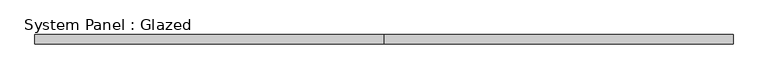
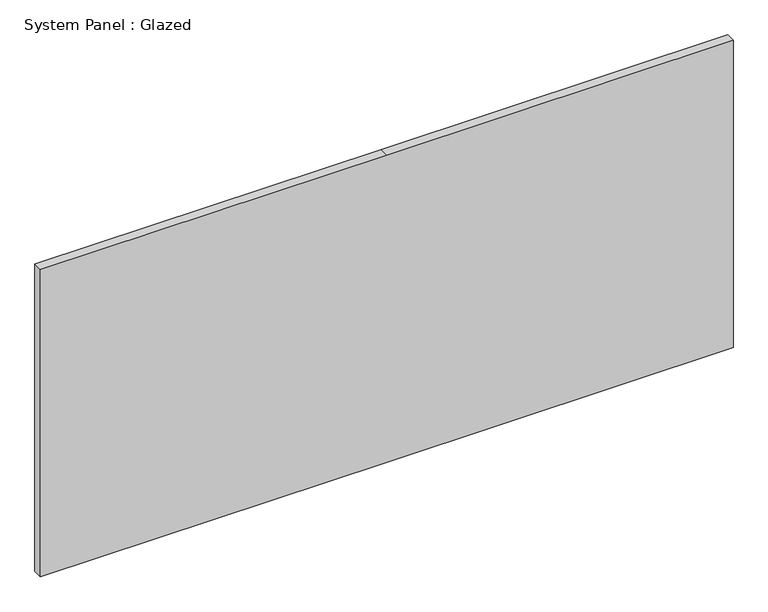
"""IFC4 building model written with IfcOpenShell, lengths in millimetres: plate geometry, System Panel : Glazed."""

from ifc_helpers import new_model, si_unit, frame, origin, place, context, project, spatial, polyline, outline, extrude, source, transform, mapped, element, save


def system_panel_glazed_8e084865(model_context):
    return source(origin(), model_context, "Body", "SweptSolid", [
        extrude(outline(polyline([(0.0, -933.45), (0.0, 0.0), (0.0, 933.45), (876.3, 933.45), (876.3, 0.0), (876.3, -933.45), (0.0, -933.45)])), frame((0.0, 19.05, 0.0), z_axis=(0.0, 1.0, 0.0), x_axis=(0.0, 0.0, 1.0)), (0.0, 0.0, 1.0), 25.4),
    ])


if __name__ == "__main__":
    model = new_model("IFC4")
    model_context = context("Model", 3, world=origin())
    ifc_project = project(units=[si_unit("LENGTHUNIT", "METRE", prefix="MILLI")], contexts=[model_context])
    site = spatial("IfcSite", under=ifc_project)
    building = spatial("IfcBuilding", under=site)
    placement = place(None, origin())
    system_panel_glazed_shape = system_panel_glazed_8e084865(model_context)
    element("IfcPlate", 1, ObjectType="System Panel : Glazed", at=placement, inside=building, context=model_context, shape_type="MappedRepresentation", body=[
        mapped(system_panel_glazed_shape, transform((0.0, 0.0, 0.0), x_axis=(1.0, 0.0, 0.0), y_axis=(0.0, 1.0, 0.0), z_axis=(0.0, 0.0, 1.0))),
    ])
    save(model, "model.ifc")
